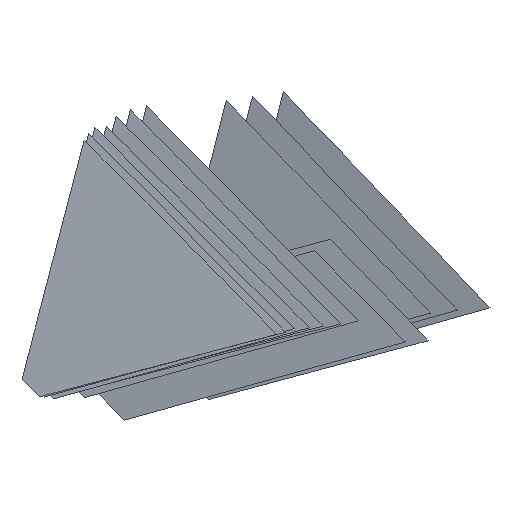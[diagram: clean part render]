
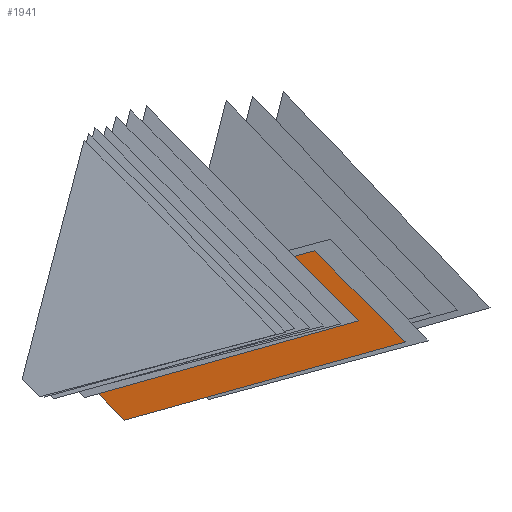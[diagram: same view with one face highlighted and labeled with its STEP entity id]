
A CAD part, front view. The second image highlights one B-rep face of the part: STEP entity #1941.
In plain terms, the highlighted free-form (B-spline) face has degree [1, 1] with [2, 2] control points.
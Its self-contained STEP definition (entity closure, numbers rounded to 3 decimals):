
#1941 = ADVANCED_FACE('',(#1942),#1955,.T.);
#1942 = FACE_BOUND('',#1943,.T.);
#1943 = EDGE_LOOP('',(#1944,#1965,#1979,#1993,#2007,#2021,#2035,#2049,
    #2063,#2077,#2091));
#1944 = ORIENTED_EDGE('',*,*,#1945,.T.);
#1945 = EDGE_CURVE('',#1946,#1948,#1950,.T.);
#1946 = VERTEX_POINT('',#1947);
#1947 = CARTESIAN_POINT('',(6.362,18.662,
    14.408));
#1948 = VERTEX_POINT('',#1949);
#1949 = CARTESIAN_POINT('',(6.214,18.691,
    13.836));
#1950 = SURFACE_CURVE('',#1951,(#1954),.PCURVE_S1.);
#1951 = B_SPLINE_CURVE_WITH_KNOTS('',1,(#1952,#1953),.UNSPECIFIED.,.F.,
  .F.,(2,2),(-0.591,-0.),.PIECEWISE_BEZIER_KNOTS.);
#1952 = CARTESIAN_POINT('',(6.362,18.662,
    14.408));
#1953 = CARTESIAN_POINT('',(6.214,18.691,
    13.836));
#1954 = PCURVE('',#1955,#1960);
#1955 = B_SPLINE_SURFACE_WITH_KNOTS('',1,1,(
    (#1956,#1957)
    ,(#1958,#1959
    )),.UNSPECIFIED.,.F.,.F.,.F.,(2,2),(2,2),(-2.522,
    2.517),(-5.326,5.484),
  .PIECEWISE_BEZIER_KNOTS.);
#1956 = CARTESIAN_POINT('',(6.216,18.691,
    16.57));
#1957 = CARTESIAN_POINT('',(16.819,16.578,
    16.563));
#1958 = CARTESIAN_POINT('',(6.213,18.691,11.532)
  );
#1959 = CARTESIAN_POINT('',(16.815,16.578,
    11.524));
#1960 = DEFINITIONAL_REPRESENTATION('',(#1961),#1964);
#1961 = B_SPLINE_CURVE_WITH_KNOTS('',1,(#1962,#1963),.UNSPECIFIED.,.F.,
  .F.,(2,2),(-0.591,-0.),.PIECEWISE_BEZIER_KNOTS.);
#1962 = CARTESIAN_POINT('',(-0.36,-5.176));
#1963 = CARTESIAN_POINT('',(0.212,-5.326));
#1964 = ( GEOMETRIC_REPRESENTATION_CONTEXT(2) 
PARAMETRIC_REPRESENTATION_CONTEXT() REPRESENTATION_CONTEXT('2D SPACE',''
  ) );
#1965 = ORIENTED_EDGE('',*,*,#1966,.T.);
#1966 = EDGE_CURVE('',#1948,#1967,#1969,.T.);
#1967 = VERTEX_POINT('',#1968);
#1968 = CARTESIAN_POINT('',(8.462,18.243,
    11.53));
#1969 = SURFACE_CURVE('',#1970,(#1973),.PCURVE_S1.);
#1970 = B_SPLINE_CURVE_WITH_KNOTS('',1,(#1971,#1972),.UNSPECIFIED.,.F.,
  .F.,(2,2),(0.,3.251),.PIECEWISE_BEZIER_KNOTS.);
#1971 = CARTESIAN_POINT('',(6.214,18.691,
    13.836));
#1972 = CARTESIAN_POINT('',(8.462,18.243,
    11.53));
#1973 = PCURVE('',#1955,#1974);
#1974 = DEFINITIONAL_REPRESENTATION('',(#1975),#1978);
#1975 = B_SPLINE_CURVE_WITH_KNOTS('',1,(#1976,#1977),.UNSPECIFIED.,.F.,
  .F.,(2,2),(0.,3.251),.PIECEWISE_BEZIER_KNOTS.);
#1976 = CARTESIAN_POINT('',(0.212,-5.326));
#1977 = CARTESIAN_POINT('',(2.517,-3.033));
#1978 = ( GEOMETRIC_REPRESENTATION_CONTEXT(2) 
PARAMETRIC_REPRESENTATION_CONTEXT() REPRESENTATION_CONTEXT('2D SPACE',''
  ) );
#1979 = ORIENTED_EDGE('',*,*,#1980,.T.);
#1980 = EDGE_CURVE('',#1967,#1981,#1983,.T.);
#1981 = VERTEX_POINT('',#1982);
#1982 = CARTESIAN_POINT('',(16.817,16.578,
    13.855));
#1983 = SURFACE_CURVE('',#1984,(#1987),.PCURVE_S1.);
#1984 = B_SPLINE_CURVE_WITH_KNOTS('',1,(#1985,#1986),.UNSPECIFIED.,.F.,
  .F.,(2,2),(0.,8.831),.PIECEWISE_BEZIER_KNOTS.);
#1985 = CARTESIAN_POINT('',(8.462,18.243,
    11.53));
#1986 = CARTESIAN_POINT('',(16.817,16.578,
    13.855));
#1987 = PCURVE('',#1955,#1988);
#1988 = DEFINITIONAL_REPRESENTATION('',(#1989),#1992);
#1989 = B_SPLINE_CURVE_WITH_KNOTS('',1,(#1990,#1991),.UNSPECIFIED.,.F.,
  .F.,(2,2),(0.,8.831),.PIECEWISE_BEZIER_KNOTS.);
#1990 = CARTESIAN_POINT('',(2.517,-3.033));
#1991 = CARTESIAN_POINT('',(0.186,5.484));
#1992 = ( GEOMETRIC_REPRESENTATION_CONTEXT(2) 
PARAMETRIC_REPRESENTATION_CONTEXT() REPRESENTATION_CONTEXT('2D SPACE',''
  ) );
#1993 = ORIENTED_EDGE('',*,*,#1994,.T.);
#1994 = EDGE_CURVE('',#1981,#1995,#1997,.T.);
#1995 = VERTEX_POINT('',#1996);
#1996 = CARTESIAN_POINT('',(16.795,16.582,
    13.877));
#1997 = SURFACE_CURVE('',#1998,(#2001),.PCURVE_S1.);
#1998 = B_SPLINE_CURVE_WITH_KNOTS('',1,(#1999,#2000),.UNSPECIFIED.,.F.,
  .F.,(2,2),(0.,0.032),.PIECEWISE_BEZIER_KNOTS.);
#1999 = CARTESIAN_POINT('',(16.817,16.578,
    13.855));
#2000 = CARTESIAN_POINT('',(16.795,16.582,
    13.877));
#2001 = PCURVE('',#1955,#2002);
#2002 = DEFINITIONAL_REPRESENTATION('',(#2003),#2006);
#2003 = B_SPLINE_CURVE_WITH_KNOTS('',1,(#2004,#2005),.UNSPECIFIED.,.F.,
  .F.,(2,2),(0.,0.032),.PIECEWISE_BEZIER_KNOTS.);
#2004 = CARTESIAN_POINT('',(0.186,5.484));
#2005 = CARTESIAN_POINT('',(0.164,5.462));
#2006 = ( GEOMETRIC_REPRESENTATION_CONTEXT(2) 
PARAMETRIC_REPRESENTATION_CONTEXT() REPRESENTATION_CONTEXT('2D SPACE',''
  ) );
#2007 = ORIENTED_EDGE('',*,*,#2008,.T.);
#2008 = EDGE_CURVE('',#1995,#2009,#2011,.T.);
#2009 = VERTEX_POINT('',#2010);
#2010 = CARTESIAN_POINT('',(16.316,16.678,
    14.361));
#2011 = SURFACE_CURVE('',#2012,(#2015),.PCURVE_S1.);
#2012 = B_SPLINE_CURVE_WITH_KNOTS('',1,(#2013,#2014),.UNSPECIFIED.,.F.,
  .F.,(2,2),(0.,0.688),.PIECEWISE_BEZIER_KNOTS.);
#2013 = CARTESIAN_POINT('',(16.795,16.582,
    13.877));
#2014 = CARTESIAN_POINT('',(16.316,16.678,
    14.361));
#2015 = PCURVE('',#1955,#2016);
#2016 = DEFINITIONAL_REPRESENTATION('',(#2017),#2020);
#2017 = B_SPLINE_CURVE_WITH_KNOTS('',1,(#2018,#2019),.UNSPECIFIED.,.F.,
  .F.,(2,2),(0.,0.688),.PIECEWISE_BEZIER_KNOTS.);
#2018 = CARTESIAN_POINT('',(0.164,5.462));
#2019 = CARTESIAN_POINT('',(-0.32,4.973));
#2020 = ( GEOMETRIC_REPRESENTATION_CONTEXT(2) 
PARAMETRIC_REPRESENTATION_CONTEXT() REPRESENTATION_CONTEXT('2D SPACE',''
  ) );
#2021 = ORIENTED_EDGE('',*,*,#2022,.T.);
#2022 = EDGE_CURVE('',#2009,#2023,#2025,.T.);
#2023 = VERTEX_POINT('',#2024);
#2024 = CARTESIAN_POINT('',(15.837,16.773,
    14.845));
#2025 = SURFACE_CURVE('',#2026,(#2029),.PCURVE_S1.);
#2026 = B_SPLINE_CURVE_WITH_KNOTS('',1,(#2027,#2028),.UNSPECIFIED.,.F.,
  .F.,(2,2),(0.,0.688),.PIECEWISE_BEZIER_KNOTS.);
#2027 = CARTESIAN_POINT('',(16.316,16.678,
    14.361));
#2028 = CARTESIAN_POINT('',(15.837,16.773,
    14.845));
#2029 = PCURVE('',#1955,#2030);
#2030 = DEFINITIONAL_REPRESENTATION('',(#2031),#2034);
#2031 = B_SPLINE_CURVE_WITH_KNOTS('',1,(#2032,#2033),.UNSPECIFIED.,.F.,
  .F.,(2,2),(0.,0.688),.PIECEWISE_BEZIER_KNOTS.);
#2032 = CARTESIAN_POINT('',(-0.32,4.973));
#2033 = CARTESIAN_POINT('',(-0.803,4.484));
#2034 = ( GEOMETRIC_REPRESENTATION_CONTEXT(2) 
PARAMETRIC_REPRESENTATION_CONTEXT() REPRESENTATION_CONTEXT('2D SPACE',''
  ) );
#2035 = ORIENTED_EDGE('',*,*,#2036,.T.);
#2036 = EDGE_CURVE('',#2023,#2037,#2039,.T.);
#2037 = VERTEX_POINT('',#2038);
#2038 = CARTESIAN_POINT('',(15.357,16.869,
    15.328));
#2039 = SURFACE_CURVE('',#2040,(#2043),.PCURVE_S1.);
#2040 = B_SPLINE_CURVE_WITH_KNOTS('',1,(#2041,#2042),.UNSPECIFIED.,.F.,
  .F.,(2,2),(0.,0.687),.PIECEWISE_BEZIER_KNOTS.);
#2041 = CARTESIAN_POINT('',(15.837,16.773,
    14.845));
#2042 = CARTESIAN_POINT('',(15.357,16.869,
    15.328));
#2043 = PCURVE('',#1955,#2044);
#2044 = DEFINITIONAL_REPRESENTATION('',(#2045),#2048);
#2045 = B_SPLINE_CURVE_WITH_KNOTS('',1,(#2046,#2047),.UNSPECIFIED.,.F.,
  .F.,(2,2),(0.,0.687),.PIECEWISE_BEZIER_KNOTS.);
#2046 = CARTESIAN_POINT('',(-0.803,4.484));
#2047 = CARTESIAN_POINT('',(-1.286,3.995));
#2048 = ( GEOMETRIC_REPRESENTATION_CONTEXT(2) 
PARAMETRIC_REPRESENTATION_CONTEXT() REPRESENTATION_CONTEXT('2D SPACE',''
  ) );
#2049 = ORIENTED_EDGE('',*,*,#2050,.T.);
#2050 = EDGE_CURVE('',#2037,#2051,#2053,.T.);
#2051 = VERTEX_POINT('',#2052);
#2052 = CARTESIAN_POINT('',(14.878,16.964,
    15.812));
#2053 = SURFACE_CURVE('',#2054,(#2057),.PCURVE_S1.);
#2054 = B_SPLINE_CURVE_WITH_KNOTS('',1,(#2055,#2056),.UNSPECIFIED.,.F.,
  .F.,(2,2),(0.,0.687),.PIECEWISE_BEZIER_KNOTS.);
#2055 = CARTESIAN_POINT('',(15.357,16.869,
    15.328));
#2056 = CARTESIAN_POINT('',(14.878,16.964,
    15.812));
#2057 = PCURVE('',#1955,#2058);
#2058 = DEFINITIONAL_REPRESENTATION('',(#2059),#2062);
#2059 = B_SPLINE_CURVE_WITH_KNOTS('',1,(#2060,#2061),.UNSPECIFIED.,.F.,
  .F.,(2,2),(0.,0.687),.PIECEWISE_BEZIER_KNOTS.);
#2060 = CARTESIAN_POINT('',(-1.286,3.995));
#2061 = CARTESIAN_POINT('',(-1.769,3.506));
#2062 = ( GEOMETRIC_REPRESENTATION_CONTEXT(2) 
PARAMETRIC_REPRESENTATION_CONTEXT() REPRESENTATION_CONTEXT('2D SPACE',''
  ) );
#2063 = ORIENTED_EDGE('',*,*,#2064,.T.);
#2064 = EDGE_CURVE('',#2051,#2065,#2067,.T.);
#2065 = VERTEX_POINT('',#2066);
#2066 = CARTESIAN_POINT('',(14.4,17.06,
    16.296));
#2067 = SURFACE_CURVE('',#2068,(#2071),.PCURVE_S1.);
#2068 = B_SPLINE_CURVE_WITH_KNOTS('',1,(#2069,#2070),.UNSPECIFIED.,.F.,
  .F.,(2,2),(0.,0.687),.PIECEWISE_BEZIER_KNOTS.);
#2069 = CARTESIAN_POINT('',(14.878,16.964,
    15.812));
#2070 = CARTESIAN_POINT('',(14.4,17.06,
    16.296));
#2071 = PCURVE('',#1955,#2072);
#2072 = DEFINITIONAL_REPRESENTATION('',(#2073),#2076);
#2073 = B_SPLINE_CURVE_WITH_KNOTS('',1,(#2074,#2075),.UNSPECIFIED.,.F.,
  .F.,(2,2),(0.,0.687),.PIECEWISE_BEZIER_KNOTS.);
#2074 = CARTESIAN_POINT('',(-1.769,3.506));
#2075 = CARTESIAN_POINT('',(-2.253,3.018));
#2076 = ( GEOMETRIC_REPRESENTATION_CONTEXT(2) 
PARAMETRIC_REPRESENTATION_CONTEXT() REPRESENTATION_CONTEXT('2D SPACE',''
  ) );
#2077 = ORIENTED_EDGE('',*,*,#2078,.T.);
#2078 = EDGE_CURVE('',#2065,#2079,#2081,.T.);
#2079 = VERTEX_POINT('',#2080);
#2080 = CARTESIAN_POINT('',(14.134,17.113,
    16.564));
#2081 = SURFACE_CURVE('',#2082,(#2085),.PCURVE_S1.);
#2082 = B_SPLINE_CURVE_WITH_KNOTS('',1,(#2083,#2084),.UNSPECIFIED.,.F.,
  .F.,(2,2),(-0.381,-0.),.PIECEWISE_BEZIER_KNOTS.);
#2083 = CARTESIAN_POINT('',(14.4,17.06,
    16.296));
#2084 = CARTESIAN_POINT('',(14.134,17.113,
    16.564));
#2085 = PCURVE('',#1955,#2086);
#2086 = DEFINITIONAL_REPRESENTATION('',(#2087),#2090);
#2087 = B_SPLINE_CURVE_WITH_KNOTS('',1,(#2088,#2089),.UNSPECIFIED.,.F.,
  .F.,(2,2),(-0.381,-0.),.PIECEWISE_BEZIER_KNOTS.);
#2088 = CARTESIAN_POINT('',(-2.253,3.018));
#2089 = CARTESIAN_POINT('',(-2.522,2.747));
#2090 = ( GEOMETRIC_REPRESENTATION_CONTEXT(2) 
PARAMETRIC_REPRESENTATION_CONTEXT() REPRESENTATION_CONTEXT('2D SPACE',''
  ) );
#2091 = ORIENTED_EDGE('',*,*,#2092,.T.);
#2092 = EDGE_CURVE('',#2079,#1946,#2093,.T.);
#2093 = SURFACE_CURVE('',#2094,(#2097),.PCURVE_S1.);
#2094 = B_SPLINE_CURVE_WITH_KNOTS('',1,(#2095,#2096),.UNSPECIFIED.,.F.,
  .F.,(2,2),(0.,8.213),.PIECEWISE_BEZIER_KNOTS.);
#2095 = CARTESIAN_POINT('',(14.134,17.113,
    16.564));
#2096 = CARTESIAN_POINT('',(6.362,18.662,
    14.408));
#2097 = PCURVE('',#1955,#2098);
#2098 = DEFINITIONAL_REPRESENTATION('',(#2099),#2102);
#2099 = B_SPLINE_CURVE_WITH_KNOTS('',1,(#2100,#2101),.UNSPECIFIED.,.F.,
  .F.,(2,2),(0.,8.213),.PIECEWISE_BEZIER_KNOTS.);
#2100 = CARTESIAN_POINT('',(-2.522,2.747));
#2101 = CARTESIAN_POINT('',(-0.36,-5.176));
#2102 = ( GEOMETRIC_REPRESENTATION_CONTEXT(2) 
PARAMETRIC_REPRESENTATION_CONTEXT() REPRESENTATION_CONTEXT('2D SPACE',''
  ) );
